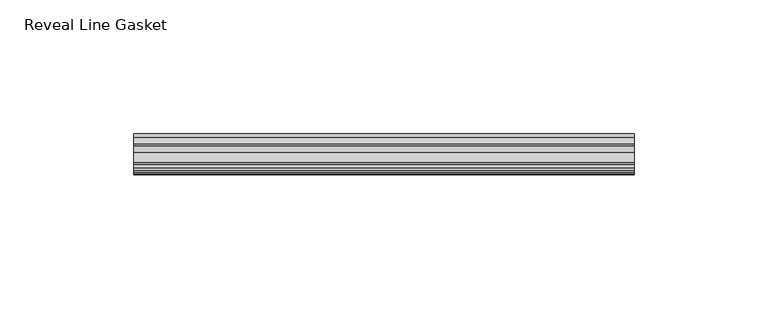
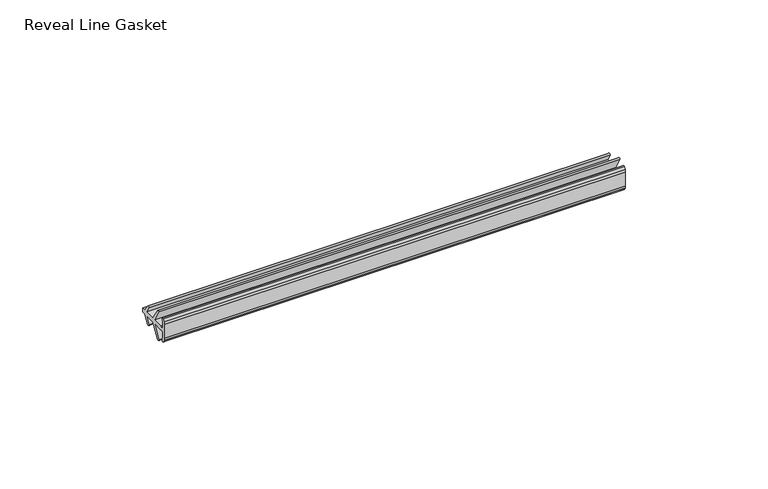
"""IFC4 building model written with IfcOpenShell, lengths in millimetres: proxy geometry, Accessories-Teknion-FHGR-AI_Healthcare-Reveal_Line_Gasket(Horizontal)-R2022 : Reveal Line Gasket."""

from ifc_helpers import new_model, si_unit, point, frame, frame_2d, origin, place, context, project, spatial, polyline, circle_curve, trimmed, segment, composite_curve, outline, extrude, source, transform, mapped, element, save


def reveal_line_gasket_379f47ea(model_context):
    return source(origin(), model_context, "Body", "SweptSolid", [
        extrude(outline(composite_curve([segment(polyline([(-7.6326998, 1603.2), (-7.4091917, 1604.1554927), (-6.8813059, 1605.0884684)]), True, "CONTINUOUS"), segment(trimmed(circle_curve(frame_2d((-6.5243141, 1604.8864793)), 0.4101739), [point((-6.8813059, 1605.0884684))], [point((-6.1246704, 1604.7941347))], False, "CARTESIAN"), True, "CONTINUOUS"), segment(polyline([(-6.1246704, 1604.7941347), (-6.3626997, 1603.0979086), (-6.3626997, 1601.0654527)]), True, "CONTINUOUS"), segment(trimmed(circle_curve(frame_2d((-5.6959605, 1601.4819258)), 0.786124), [point((-6.3626997, 1601.0654527))], [point((-5.0926996, 1600.977875))], True, "CARTESIAN"), True, "CONTINUOUS"), segment(polyline([(-5.0926996, 1600.977875), (-0.7492996, 1600.977875), (-3.7293824, 1606.1395295)]), True, "CONTINUOUS"), segment(trimmed(circle_curve(frame_2d((-3.3132479, 1606.2049761)), 0.4212495), [point((-3.7293824, 1606.1395295))], [point((-3.0485022, 1606.5326358))], False, "CARTESIAN"), True, "CONTINUOUS"), segment(polyline([(-3.0485022, 1606.5326358), (0.5742594, 1600.977875), (4.8262978, 1600.977875), (3.1660374, 1603.8535297)]), True, "CONTINUOUS"), segment(trimmed(circle_curve(frame_2d((3.5978728, 1603.9118855)), 0.4357605), [point((3.1660374, 1603.8535297))], [point((3.864328, 1604.2566881))], False, "CARTESIAN"), True, "CONTINUOUS"), segment(polyline([(3.864328, 1604.2566881), (6.1944059, 1600.977875), (7.6326998, 1600.977875), (7.6326998, 1599.422125), (6.1944059, 1599.422125), (3.864328, 1596.1433119)]), True, "CONTINUOUS"), segment(trimmed(circle_curve(frame_2d((3.5978728, 1596.4881145)), 0.4357605), [point((3.864328, 1596.1433119))], [point((3.1660374, 1596.5464703))], False, "CARTESIAN"), True, "CONTINUOUS"), segment(polyline([(3.1660374, 1596.5464703), (4.8262978, 1599.422125), (0.5742594, 1599.422125), (-3.0485022, 1593.8673642)]), True, "CONTINUOUS"), segment(trimmed(circle_curve(frame_2d((-3.3132479, 1594.1950239)), 0.4212495), [point((-3.0485022, 1593.8673642))], [point((-3.7293824, 1594.2604705))], False, "CARTESIAN"), True, "CONTINUOUS"), segment(polyline([(-3.7293824, 1594.2604705), (-0.7492996, 1599.422125), (-5.0926996, 1599.422125)]), True, "CONTINUOUS"), segment(trimmed(circle_curve(frame_2d((-5.6959605, 1598.9180742)), 0.786124), [point((-5.0926996, 1599.422125))], [point((-6.3626997, 1599.3345473))], True, "CARTESIAN"), True, "CONTINUOUS"), segment(polyline([(-6.3626997, 1599.3345473), (-6.3626997, 1597.3020914), (-6.1246704, 1595.6058653)]), True, "CONTINUOUS"), segment(trimmed(circle_curve(frame_2d((-6.5243141, 1595.5135207)), 0.4101739), [point((-6.1246704, 1595.6058653))], [point((-6.8813059, 1595.3115316))], False, "CARTESIAN"), True, "CONTINUOUS"), segment(polyline([(-6.8813059, 1595.3115316), (-7.4091917, 1596.2445073), (-7.6326998, 1597.2), (-7.6326998, 1603.2)]), True, "CONTINUOUS")], self_intersect=False)), frame((-93.3704, 0.0, 0.0), z_axis=(1.0, 0.0, 0.0), x_axis=(0.0, 1.0, 0.0)), (0.0, 0.0, 1.0), 186.7408),
    ])


if __name__ == "__main__":
    model = new_model("IFC4")
    model_context = context("Model", 3, world=origin())
    ifc_project = project(units=[si_unit("LENGTHUNIT", "METRE", prefix="MILLI")], contexts=[model_context])
    site = spatial("IfcSite", under=ifc_project)
    building = spatial("IfcBuilding", under=site)
    placement = place(None, origin())
    reveal_line_gasket_shape = reveal_line_gasket_379f47ea(model_context)
    element("IfcBuildingElementProxy", 1, Name="Accessories-Teknion-FHGR-AI_Healthcare-Reveal_Line_Gasket(Horizontal)-R2022 : Reveal Line Gasket", ObjectType="Accessories-Teknion-FHGR-AI_Healthcare-Reveal_Line_Gasket(Horizontal)-R2022 : Reveal Line Gasket", at=placement, inside=building, context=model_context, shape_type="MappedRepresentation", body=[
        mapped(reveal_line_gasket_shape, transform((0.0, 0.0, 0.0), x_axis=(1.0, 0.0, 0.0), y_axis=(0.0, 1.0, 0.0), z_axis=(0.0, 0.0, 1.0))),
    ])
    save(model, "model.ifc")
